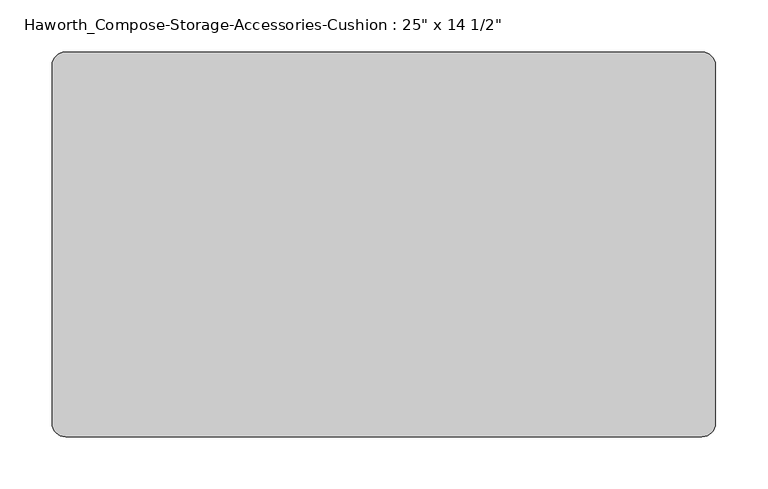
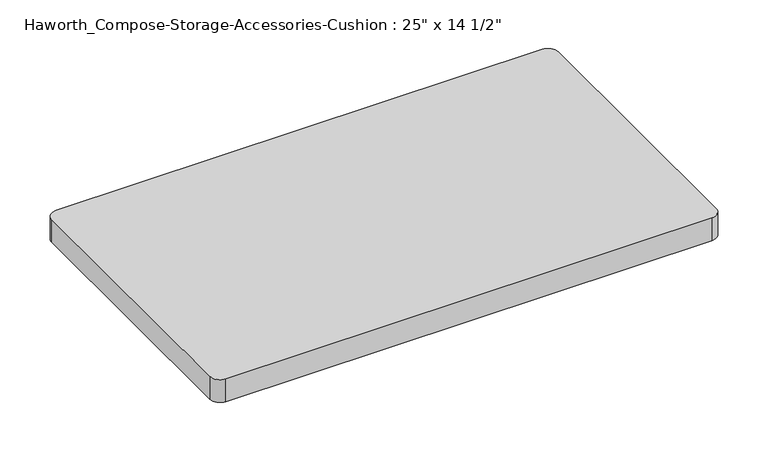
"""IFC4 building model written with IfcOpenShell, lengths in millimetres: furniture geometry."""

from ifc_helpers import new_model, si_unit, point, frame, frame_2d, origin, place, context, project, spatial, polyline, circle_curve, trimmed, segment, composite_curve, outline, extrude, source, transform, mapped, element, save


def furniture_b5108ae6(model_context):
    return source(origin(), model_context, "Body", "SweptSolid", [
        extrude(outline(composite_curve([segment(trimmed(circle_curve(frame_2d((304.8, 171.45)), 12.7), [point((304.8, 184.15))], [point((317.5, 171.45))], False, "CARTESIAN"), True, "CONTINUOUS"), segment(polyline([(317.5, 171.45), (317.5, -171.45)]), True, "CONTINUOUS"), segment(trimmed(circle_curve(frame_2d((304.8, -171.45)), 12.7), [point((317.5, -171.45))], [point((304.8, -184.15))], False, "CARTESIAN"), True, "CONTINUOUS"), segment(polyline([(304.8, -184.15), (-304.8, -184.15)]), True, "CONTINUOUS"), segment(trimmed(circle_curve(frame_2d((-304.8, -171.45)), 12.7), [point((-304.8, -184.15))], [point((-317.5, -171.45))], False, "CARTESIAN"), True, "CONTINUOUS"), segment(polyline([(-317.5, -171.45), (-317.5, 171.45)]), True, "CONTINUOUS"), segment(trimmed(circle_curve(frame_2d((-304.8, 171.45)), 12.7), [point((-317.5, 171.45))], [point((-304.8, 184.15))], False, "CARTESIAN"), True, "CONTINUOUS"), segment(polyline([(-304.8, 184.15), (304.8, 184.15)]), True, "CONTINUOUS")], self_intersect=False)), frame((0.0, 0.0, 673.1), z_axis=(0.0, 0.0, 1.0), x_axis=(1.0, 0.0, 0.0)), (0.0, 0.0, 1.0), 30.1625),
    ])


if __name__ == "__main__":
    model = new_model("IFC4")
    model_context = context("Model", 3, world=origin())
    ifc_project = project(units=[si_unit("LENGTHUNIT", "METRE", prefix="MILLI")], contexts=[model_context])
    site = spatial("IfcSite", under=ifc_project)
    building = spatial("IfcBuilding", under=site)
    placement = place(None, origin())
    furniture_shape = furniture_b5108ae6(model_context)
    element("IfcFurniture", 1, ObjectType="Haworth_Compose-Storage-Accessories-Cushion : 25\" x 14 1/2\"", at=placement, inside=building, context=model_context, shape_type="MappedRepresentation", body=[
        mapped(furniture_shape, transform((0.0, 0.0, 0.0), x_axis=(1.0, 0.0, 0.0), y_axis=(0.0, 1.0, 0.0), z_axis=(0.0, 0.0, 1.0))),
    ])
    save(model, "model.ifc")
